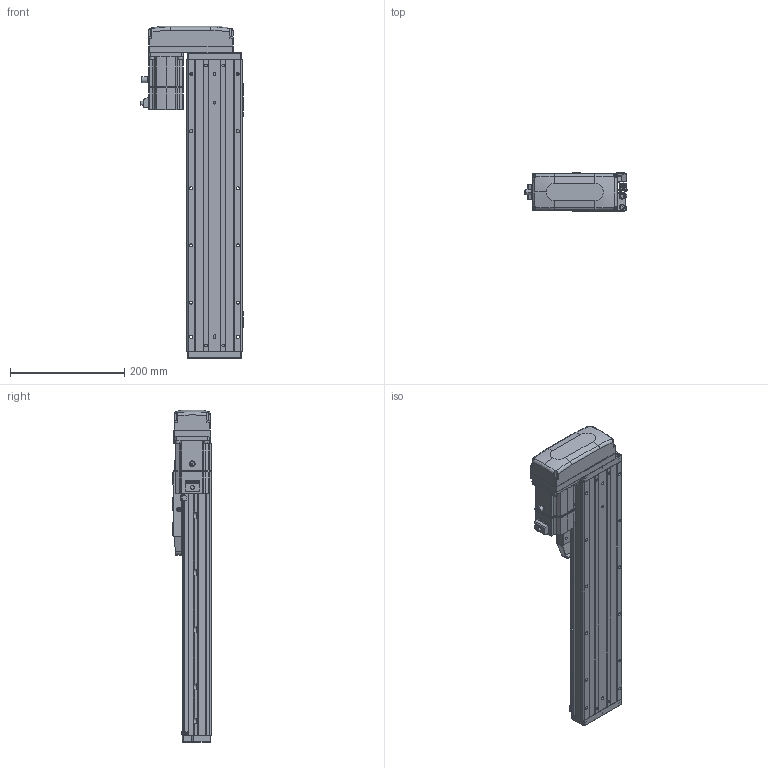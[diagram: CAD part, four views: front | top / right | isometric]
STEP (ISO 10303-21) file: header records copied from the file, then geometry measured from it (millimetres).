
FILE_DESCRIPTION (( 'STEP AP203' ), '1' );
FILE_NAME ('CTHA100-300-BL-M20-C4L.step', '2022-07-06T09:08:15', ( '微软用户' ), ( '微软中国' ), 'SwSTEP 2.0', 'SolidWorks 2020', '' );
FILE_SCHEMA (( 'CONFIG_CONTROL_DESIGN' ));
Length unit declared in the file: millimetre
Products named in the file (19): _X2_4E0983F1_X0_200W_1; CTHA100-300-BL-M20-C4L; CTHA60-017; CTHA100-002; CTHA60-021; CTHA100-031; KTHA100-001_510; GBT77-2000 M3×3; CTHA86-030; KTHA100-004; GBT 70.1-M3℅6; GBT 70.3-M3℅6; KTHA100-005; GBT70.1 M5℅16; CTHA86-015-1_CTHA86-015-2; GB¨uT 70.2-M3¡Á5_M3¡Á6; CTHA60-016; CTHA86-033; EE_SX911P_R
Assembly tree (64 placements, depth 2):
  CTHA100-300-BL-M20-C4L
    KTHA100-001_510
    KTHA100-004
    KTHA100-005
    GB¨uT 70.2-M3¡Á5_M3¡Á6  x10
    EE_SX911P_R  x3
    CTHA60-017  x3
    CTHA60-021  x2
    GBT77-2000 M3×3  x6
    GBT 70.1-M3℅6  x10
    GBT70.1 M5℅16  x14
    CTHA60-016  x2
    _X2_4E0983F1_X0_200W_1
    CTHA100-002
    CTHA100-031
    CTHA86-030  x2
    GBT 70.3-M3℅6  x4
    CTHA86-015-1_CTHA86-015-2
    CTHA86-033
Bounding box: 178.52 x 68 x 581 mm (x, y, z)
Volume: 2747833.1 mm3; surface area: 483671 mm2
Topology: 66 solids, 66 shells, 2629 faces, 6303 edges, 3904 vertices
Faces by surface type: plane 1368, cylinder 689, cone 349, torus 124, bspline 75, sphere 24
Entity records: 44700 total; most frequent: CARTESIAN_POINT 8811, DIRECTION 6874, ORIENTED_EDGE 6722, EDGE_CURVE 3361, AXIS2_PLACEMENT_3D 2339, VECTOR 2196, LINE 2196, VERTEX_POINT 2124
